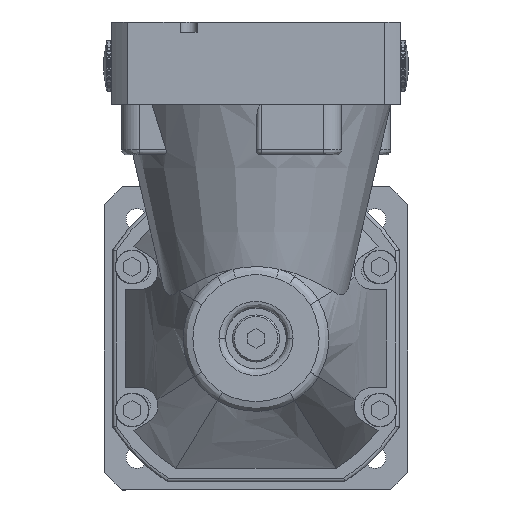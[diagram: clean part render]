
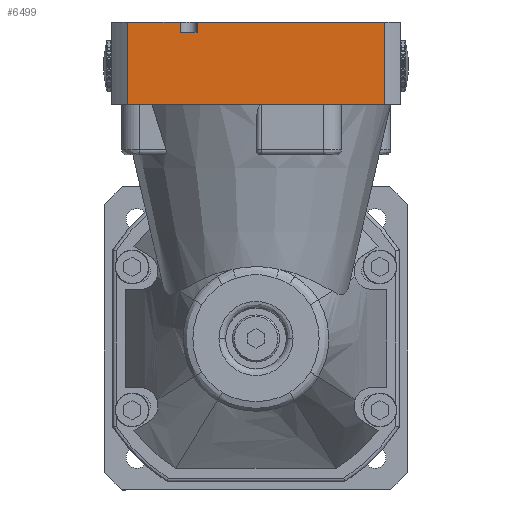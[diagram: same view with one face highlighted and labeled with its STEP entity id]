
A CAD part, left-side view. The second image highlights one B-rep face of the part: STEP entity #6499.
In plain terms, the highlighted planar face has unit normal (-1, 0, 0).
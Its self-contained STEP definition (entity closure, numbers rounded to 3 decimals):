
#215 = CARTESIAN_POINT ( 'NONE',  ( -132.197, -81.198, 210.623 ) ) ;
#460 = ORIENTED_EDGE ( 'NONE', *, *, #62746, .F. ) ;
#1130 = CARTESIAN_POINT ( 'NONE',  ( -132.197, -146.698, 247.123 ) ) ;
#4131 = LINE ( 'NONE', #24320, #43877 ) ;
#4348 = VERTEX_POINT ( 'NONE', #59994 ) ;
#6499 = ADVANCED_FACE ( 'NONE', ( #67608 ), #62234, .F. ) ;
#6559 = DIRECTION ( 'NONE',  ( 0., -1., 0. ) ) ;
#6593 = CARTESIAN_POINT ( 'NONE',  ( -132.197, -86.198, 247.123 ) ) ;
#7449 = CARTESIAN_POINT ( 'NONE',  ( -132.197, -65.524, 250.123 ) ) ;
#8983 = EDGE_LOOP ( 'NONE', ( #19730, #10465, #22730, #38209, #460, #62913, #69192, #32127 ) ) ;
#9376 = CARTESIAN_POINT ( 'NONE',  ( -132.197, -65.524, 250.124 ) ) ;
#10465 = ORIENTED_EDGE ( 'NONE', *, *, #56387, .F. ) ;
#11416 = VERTEX_POINT ( 'NONE', #44118 ) ;
#12663 = VECTOR ( 'NONE', #20399, 1000. ) ;
#13336 = DIRECTION ( 'NONE',  ( 1., 0., 0. ) ) ;
#13392 = DIRECTION ( 'NONE',  ( 0., -1., 0. ) ) ;
#13448 = EDGE_CURVE ( 'NONE', #26574, #48045, #52197, .T. ) ;
#14112 = EDGE_CURVE ( 'NONE', #48045, #26073, #66474, .T. ) ;
#14854 = VECTOR ( 'NONE', #13392, 1000. ) ;
#15509 = EDGE_CURVE ( 'NONE', #11416, #20142, #50025, .T. ) ;
#16275 = CARTESIAN_POINT ( 'NONE',  ( -132.197, -81.198, 250.123 ) ) ;
#17747 = CARTESIAN_POINT ( 'NONE',  ( -132.197, -103.698, 225.623 ) ) ;
#18753 = LINE ( 'NONE', #46969, #14854 ) ;
#19730 = ORIENTED_EDGE ( 'NONE', *, *, #31409, .F. ) ;
#19978 = CARTESIAN_POINT ( 'NONE',  ( -132.197, -65.524, 225.623 ) ) ;
#20142 = VERTEX_POINT ( 'NONE', #6593 ) ;
#20399 = DIRECTION ( 'NONE',  ( 0., 0., 1. ) ) ;
#22730 = ORIENTED_EDGE ( 'NONE', *, *, #68506, .F. ) ;
#23024 = VECTOR ( 'NONE', #6559, 1000. ) ;
#23628 = CARTESIAN_POINT ( 'NONE',  ( -132.197, -141.872, 250.123 ) ) ;
#23665 = DIRECTION ( 'NONE',  ( 0., 0., -1. ) ) ;
#24320 = CARTESIAN_POINT ( 'NONE',  ( -132.197, -86.198, 210.623 ) ) ;
#24512 = VERTEX_POINT ( 'NONE', #49623 ) ;
#26073 = VERTEX_POINT ( 'NONE', #16275 ) ;
#26574 = VERTEX_POINT ( 'NONE', #19978 ) ;
#28323 = CARTESIAN_POINT ( 'NONE',  ( -132.197, -146.698, 250.123 ) ) ;
#28755 = DIRECTION ( 'NONE',  ( 0., 0., -1. ) ) ;
#29721 = VECTOR ( 'NONE', #23665, 1000. ) ;
#30129 = CARTESIAN_POINT ( 'NONE',  ( -132.197, -146.698, 210.623 ) ) ;
#31409 = EDGE_CURVE ( 'NONE', #60893, #4348, #56148, .T. ) ;
#32127 = ORIENTED_EDGE ( 'NONE', *, *, #63581, .F. ) ;
#34028 = CARTESIAN_POINT ( 'NONE',  ( -132.197, -141.872, 210.623 ) ) ;
#34640 = AXIS2_PLACEMENT_3D ( 'NONE', #30129, #13336, #51894 ) ;
#38209 = ORIENTED_EDGE ( 'NONE', *, *, #15509, .F. ) ;
#43877 = VECTOR ( 'NONE', #46104, 1000. ) ;
#44118 = CARTESIAN_POINT ( 'NONE',  ( -132.197, -81.198, 247.123 ) ) ;
#46104 = DIRECTION ( 'NONE',  ( 0., 0., 1. ) ) ;
#46969 = CARTESIAN_POINT ( 'NONE',  ( -132.197, -146.698, 250.123 ) ) ;
#48045 = VERTEX_POINT ( 'NONE', #7449 ) ;
#48319 = VECTOR ( 'NONE', #28755, 1000. ) ;
#49468 = LINE ( 'NONE', #215, #48319 ) ;
#49623 = CARTESIAN_POINT ( 'NONE',  ( -132.197, -86.198, 250.123 ) ) ;
#50025 = LINE ( 'NONE', #1130, #52715 ) ;
#51894 = DIRECTION ( 'NONE',  ( 0., 1., 0. ) ) ;
#52197 = LINE ( 'NONE', #9376, #12663 ) ;
#52715 = VECTOR ( 'NONE', #61404, 1000. ) ;
#54055 = VECTOR ( 'NONE', #61304, 1000. ) ;
#56148 = LINE ( 'NONE', #34028, #29721 ) ;
#56387 = EDGE_CURVE ( 'NONE', #24512, #60893, #18753, .T. ) ;
#59994 = CARTESIAN_POINT ( 'NONE',  ( -132.197, -141.872, 225.623 ) ) ;
#60893 = VERTEX_POINT ( 'NONE', #23628 ) ;
#61304 = DIRECTION ( 'NONE',  ( 0., 1., 0. ) ) ;
#61404 = DIRECTION ( 'NONE',  ( 0., -1., 0. ) ) ;
#62234 = PLANE ( 'NONE',  #34640 ) ;
#62746 = EDGE_CURVE ( 'NONE', #26073, #11416, #49468, .T. ) ;
#62913 = ORIENTED_EDGE ( 'NONE', *, *, #14112, .F. ) ;
#63581 = EDGE_CURVE ( 'NONE', #4348, #26574, #66668, .T. ) ;
#66474 = LINE ( 'NONE', #28323, #23024 ) ;
#66668 = LINE ( 'NONE', #17747, #54055 ) ;
#67608 = FACE_OUTER_BOUND ( 'NONE', #8983, .T. ) ;
#68506 = EDGE_CURVE ( 'NONE', #20142, #24512, #4131, .T. ) ;
#69192 = ORIENTED_EDGE ( 'NONE', *, *, #13448, .F. ) ;
